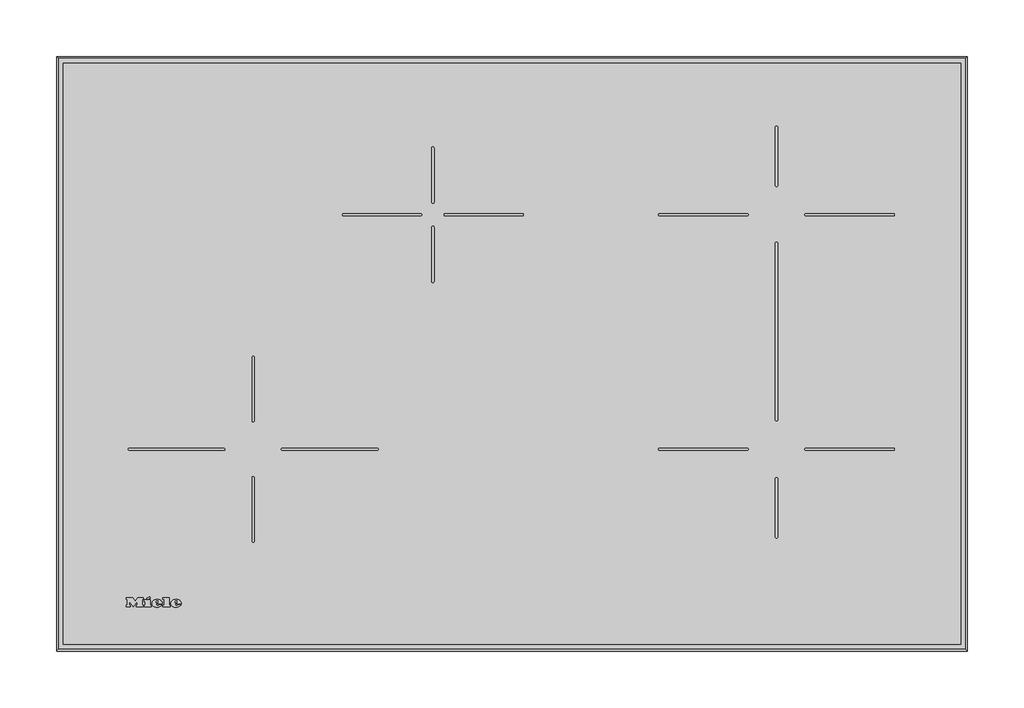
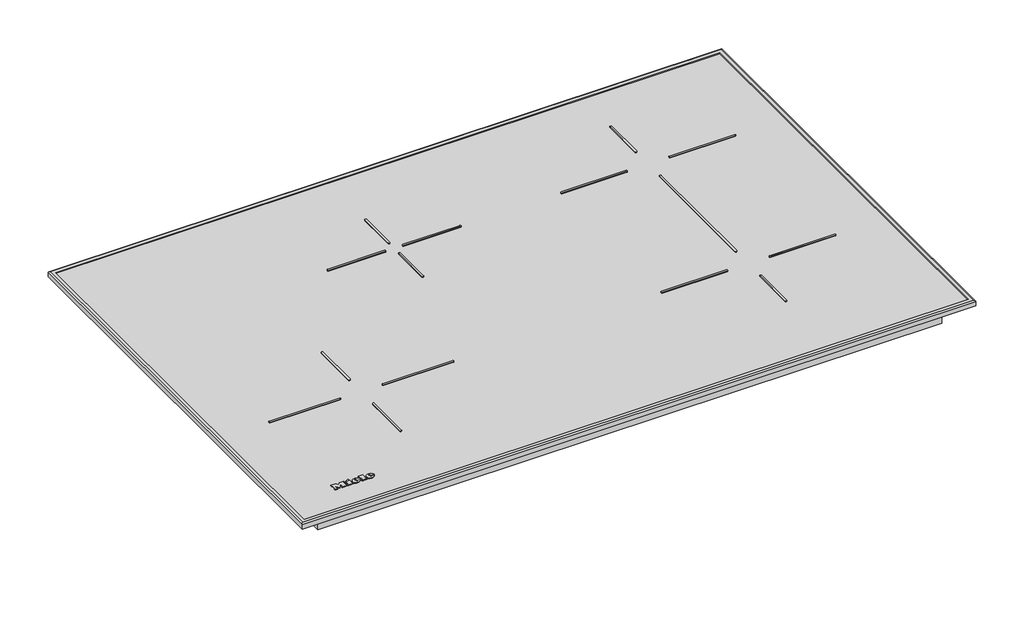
# Not in any storey: 1 proxy.
"""IFC4 building model written with IfcOpenShell, lengths in millimetres."""

import ifcopenshell
import ifcopenshell.guid

model = None  # the IFC model being written
_history = None  # IfcOwnerHistory: only IFC2X3 demands one
_inside = {}  # id of a spatial element -> (the spatial element, [elements in it])
_under = {}  # id of a project, library or spatial element -> (it, [spatial elements below it])
_declared = {}  # id of a project -> (the project, [libraries it declares])
_typed = {}  # id of a type object -> (the type object, [elements of that type])
_made_of = {}  # id of a material, layer set ... -> (it, [elements and type objects made of it])


def new_model(schema):
    """Start an empty IFC model of exactly this schema.

    Asked for "IFC4X3", IfcOpenShell would pick the latest addendum, in which some entities
    have other attributes; the version numbers below select the first issue.
    IFC2X3 requires an IfcOwnerHistory on every rooted entity: one is made here for all.
    """
    global model, _history
    if schema == "IFC4X3":
        model = ifcopenshell.file(schema_version=(4, 3, 0, 0))
    else:
        model = ifcopenshell.file(schema=schema)
    _inside.clear()
    _under.clear()
    _declared.clear()
    _typed.clear()
    _made_of.clear()
    _history = None
    if model.schema == "IFC2X3":
        org = make("IfcOrganization", Name="unknown")
        user = make(
            "IfcPersonAndOrganization",
            ThePerson=make("IfcPerson", FamilyName="unknown"),
            TheOrganization=org,
        )
        app = make(
            "IfcApplication",
            ApplicationDeveloper=org,
            Version="unknown",
            ApplicationFullName="unknown",
            ApplicationIdentifier="unknown",
        )
        _history = make(
            "IfcOwnerHistory",
            OwningUser=user,
            OwningApplication=app,
            ChangeAction="ADDED",
            CreationDate=0,
        )
    return model


def make(cls, **values):
    """One entity of the class cls with the attributes given. An attribute that is None is left unset."""
    return model.create_entity(
        cls, **{name: value for name, value in values.items() if value is not None}
    )


def rooted(cls, **values):
    """An entity with a GlobalId (a new one), such as an element, a storey or a relation."""
    return make(cls, GlobalId=ifcopenshell.guid.new(), OwnerHistory=_history, **values)


def si_unit(unit_type, name, prefix=None):
    """IfcSIUnit, for example si_unit("LENGTHUNIT", "METRE", prefix="MILLI")."""
    return make("IfcSIUnit", UnitType=unit_type, Prefix=prefix, Name=name)


def assignment(units):
    """IfcUnitAssignment: the units of a project."""
    return None if units is None else make("IfcUnitAssignment", Units=units)


def point(xyz):
    """IfcCartesianPoint."""
    return None if xyz is None else make("IfcCartesianPoint", Coordinates=xyz)


def direction(xyz):
    """IfcDirection."""
    return None if xyz is None else make("IfcDirection", DirectionRatios=xyz)


def frame(location, z_axis=None, x_axis=None):
    """IfcAxis2Placement3D, a coordinate frame: its origin and axes. An axis left out is left unset."""
    return make(
        "IfcAxis2Placement3D",
        Location=point(location),
        Axis=direction(z_axis),
        RefDirection=direction(x_axis),
    )


def frame_2d(location, x_axis=None):
    """IfcAxis2Placement2D, a coordinate frame in the plane: its origin and x axis."""
    return make(
        "IfcAxis2Placement2D", Location=point(location), RefDirection=direction(x_axis)
    )


def origin():
    """The frame at (0, 0, 0) with its axes left unset."""
    return frame((0.0, 0.0, 0.0))


def origin_with_axes():
    """The frame at (0, 0, 0) with the z axis (0, 0, 1) and the x axis (1, 0, 0) written out."""
    return frame((0.0, 0.0, 0.0), z_axis=(0.0, 0.0, 1.0), x_axis=(1.0, 0.0, 0.0))


def place(relative_to, where):
    """IfcLocalPlacement: puts the frame where relative to a parent placement (None: the world)."""
    return make(
        "IfcLocalPlacement", PlacementRelTo=relative_to, RelativePlacement=where
    )


def context(
    kind, dimensions, precision=None, world=None, true_north=None, identifier=None
):
    """IfcGeometricRepresentationContext, for example the 3D "Model" context."""
    return make(
        "IfcGeometricRepresentationContext",
        ContextIdentifier=identifier,
        ContextType=kind,
        CoordinateSpaceDimension=dimensions,
        Precision=precision,
        WorldCoordinateSystem=world,
        TrueNorth=true_north,
    )


def project(units=None, contexts=None):
    """IfcProject with its units and contexts."""
    return rooted(
        "IfcProject",
        Name="project",
        RepresentationContexts=contexts,
        UnitsInContext=assignment(units),
    )


def spatial(cls, under=None, at=None, **own):
    """A site, building, storey or space (cls), placed at a placement, below another one or the project."""
    s = rooted(cls, ObjectPlacement=at, **own)
    if under is not None:
        _under.setdefault(under.id(), (under, []))[1].append(s)
    return s


def polyline(points):
    """IfcPolyline through the points."""
    return make("IfcPolyline", Points=[point(p) for p in points])


def circle_curve(where, radius):
    """IfcCircle in the frame where."""
    return make("IfcCircle", Position=where, Radius=radius)


def ellipse_curve(where, semi_axis1, semi_axis2):
    """IfcEllipse in the frame where."""
    return make(
        "IfcEllipse", Position=where, SemiAxis1=semi_axis1, SemiAxis2=semi_axis2
    )


def trimmed(basis, trim1, trim2, sense, master):
    """IfcTrimmedCurve: the piece of a basis curve between two trims."""
    return make(
        "IfcTrimmedCurve",
        BasisCurve=basis,
        Trim1=trim1,
        Trim2=trim2,
        SenseAgreement=sense,
        MasterRepresentation=master,
    )


def segment(curve, same_sense, transition):
    """IfcCompositeCurveSegment."""
    return make(
        "IfcCompositeCurveSegment",
        Transition=transition,
        SameSense=same_sense,
        ParentCurve=curve,
    )


def composite_curve(segments, self_intersect=None):
    """IfcCompositeCurve: segments joined end to end."""
    return make("IfcCompositeCurve", Segments=segments, SelfIntersect=self_intersect)


def outline(outer, holes=None, kind="AREA"):
    """IfcArbitraryClosedProfileDef: a profile drawn as a closed curve; with holes, ...WithVoids."""
    if holes is None:
        return make("IfcArbitraryClosedProfileDef", ProfileType=kind, OuterCurve=outer)
    return make(
        "IfcArbitraryProfileDefWithVoids",
        ProfileType=kind,
        OuterCurve=outer,
        InnerCurves=holes,
    )


def extrude(swept, where, along, depth):
    """IfcExtrudedAreaSolid: the profile swept, set in the frame where, extruded along a direction by depth."""
    return make(
        "IfcExtrudedAreaSolid",
        SweptArea=swept,
        Position=where,
        ExtrudedDirection=direction(along),
        Depth=depth,
    )


def shape(context_of_items, identifier, shape_type, items):
    """IfcShapeRepresentation: the items that make up one representation, for example the "Body"."""
    return make(
        "IfcShapeRepresentation",
        ContextOfItems=context_of_items,
        RepresentationIdentifier=identifier,
        RepresentationType=shape_type,
        Items=items,
    )


def source(mapping_origin, context_of_items, identifier, shape_type, items):
    """IfcRepresentationMap: a shape defined once, which mapped items show again and again."""
    return make(
        "IfcRepresentationMap",
        MappingOrigin=mapping_origin,
        MappedRepresentation=shape(context_of_items, identifier, shape_type, items),
    )


def transform(
    local_origin,
    x_axis=None,
    y_axis=None,
    z_axis=None,
    scale=None,
    scale2=None,
    scale3=None,
    uniform=True,
):
    """IfcCartesianTransformationOperator3D, or its non-uniform kind. x_axis, y_axis, z_axis: its Axis1, 2, 3."""
    if uniform:
        return make(
            "IfcCartesianTransformationOperator3D",
            Axis1=direction(x_axis),
            Axis2=direction(y_axis),
            LocalOrigin=point(local_origin),
            Scale=scale,
            Axis3=direction(z_axis),
        )
    return make(
        "IfcCartesianTransformationOperator3DnonUniform",
        Axis1=direction(x_axis),
        Axis2=direction(y_axis),
        LocalOrigin=point(local_origin),
        Scale=scale,
        Axis3=direction(z_axis),
        Scale2=scale2,
        Scale3=scale3,
    )


def mapped(mapping_source, mapping_target):
    """IfcMappedItem: shows the shape of a source again, moved by a transform."""
    return make(
        "IfcMappedItem", MappingSource=mapping_source, MappingTarget=mapping_target
    )


def made_of(thing, what):
    """Note that an element or type object is made of a material, layer set ...; save() writes the relation."""
    if what is not None:
        _made_of.setdefault(what.id(), (what, []))[1].append(thing)
    return thing


def element(
    cls,
    number,
    at=None,
    inside=None,
    cuts=None,
    type_object=None,
    material=None,
    context=None,
    identifier="Body",
    shape_type=None,
    held_by="IfcProductDefinitionShape",
    body=None,
    shapes=None,
    **own,
):
    """One element of the class cls, such as IfcWall. Its Tag is "e" and its number.

    at: its placement. inside: the storey or other place that contains it. cuts: it is an
    opening in that element (IfcRelVoidsElement). A single representation is given by context,
    identifier, shape_type and body (its items); several are given by shapes. held_by: the class
    of the entity that holds the representations. save() writes the other relations.
    """
    e = rooted(cls, Tag="e%d" % number, ObjectPlacement=at, **own)
    if body is not None:
        shapes = [shape(context, identifier, shape_type, body)]
    if shapes is not None:
        e.Representation = make(held_by, Representations=shapes)
    if inside is not None:
        _inside.setdefault(inside.id(), (inside, []))[1].append(e)
    if cuts is not None:
        rooted(
            "IfcRelVoidsElement", RelatingBuildingElement=cuts, RelatedOpeningElement=e
        )
    if type_object is not None:
        _typed.setdefault(type_object.id(), (type_object, []))[1].append(e)
    return made_of(e, material)


def aggregate(whole, parts):
    """IfcRelAggregates: a whole, such as a stair, and the parts it consists of."""
    return rooted("IfcRelAggregates", RelatingObject=whole, RelatedObjects=parts)


def save(model, path):
    """Write the relations noted so far, then the file.

    IfcRelAggregates (storeys below a building ...), IfcRelContainedInSpatialStructure (elements
    in a storey), IfcRelDefinesByType, IfcRelAssociatesMaterial and IfcRelDeclares: one each for
    every whole, place, type object, material and project.
    """
    for whole, parts in _under.values():
        aggregate(whole, parts)
    for where, things in _inside.values():
        rooted(
            "IfcRelContainedInSpatialStructure",
            RelatedElements=things,
            RelatingStructure=where,
        )
    for kind, things in _typed.values():
        rooted("IfcRelDefinesByType", RelatedObjects=things, RelatingType=kind)
    for what, things in _made_of.values():
        rooted("IfcRelAssociatesMaterial", RelatedObjects=things, RelatingMaterial=what)
    for by, libraries in _declared.values():
        rooted("IfcRelDeclares", RelatingContext=by, RelatedDefinitions=libraries)
    model.write(path)


def plane_surface(at):
    """IfcPlane: the flat surface through the origin of the frame at, square to its z axis."""
    return make("IfcPlane", Position=at)


def cylinder_surface(at, radius):
    """IfcCylindricalSurface: all points at the distance radius from the z axis of the frame at."""
    return make("IfcCylindricalSurface", Position=at, Radius=radius)


def revolved_surface(curve, axis_point, axis_direction):
    """IfcSurfaceOfRevolution: the curve turned about the line through axis_point along axis_direction."""
    return make(
        "IfcSurfaceOfRevolution",
        SweptCurve=make("IfcArbitraryOpenProfileDef", ProfileType="CURVE", Curve=curve),
        AxisPosition=make("IfcAxis1Placement", Location=point(axis_point), Axis=direction(axis_direction)),
    )


def extruded_surface(curve, direction_of_extrusion, depth):
    """IfcSurfaceOfLinearExtrusion: the curve pushed along a direction by depth."""
    return make(
        "IfcSurfaceOfLinearExtrusion",
        SweptCurve=make("IfcArbitraryOpenProfileDef", ProfileType="CURVE", Curve=curve),
        ExtrudedDirection=direction(direction_of_extrusion),
        Depth=depth,
    )


def advanced_brep(points, edges, surfaces, faces):
    """IfcAdvancedBrep: a solid bounded by faces that lie on surfaces and meet in shared edges.

    An edge is (start, end): straight between two places in points (the first is 0);
    or (start, end, curve); or (start, end, curve, False) where it runs against its curve.
    A face is (place in surfaces, loops), or (place, loops, False) where it looks against
    its surface's normal. A loop lists edges by number (the first is 1), with a minus sign
    where the edge is run from its end to its start. The first loop is the outer one.
    """
    corners = [point(p) for p in points]
    vertices = [make("IfcVertexPoint", VertexGeometry=c) for c in corners]
    made = []
    for start, end, *more in edges:
        made.append(
            make(
                "IfcEdgeCurve",
                EdgeStart=vertices[start],
                EdgeEnd=vertices[end],
                EdgeGeometry=more[0] if more else make("IfcPolyline", Points=[corners[start], corners[end]]),
                SameSense=more[1] if len(more) > 1 else True,
            )
        )
    hull = []
    for where, loops, *sense in faces:
        bounds = []
        for j, loop in enumerate(loops):
            ring = [make("IfcOrientedEdge", EdgeElement=made[abs(k) - 1], Orientation=k > 0) for k in loop]
            bounds.append(
                make(
                    "IfcFaceOuterBound" if j == 0 else "IfcFaceBound",
                    Bound=make("IfcEdgeLoop", EdgeList=ring),
                    Orientation=True,
                )
            )
        hull.append(make("IfcAdvancedFace", Bounds=bounds, FaceSurface=surfaces[where], SameSense=sense[0] if sense else True))
    return make("IfcAdvancedBrep", Outer=make("IfcClosedShell", CfsFaces=hull))


def specialty_equipment_a5883740(model_context):
    return source(origin(), model_context, "Body", "SolidModel", [
        advanced_brep(
        [(-297.911984, 41.066, 5.0000007), (-297.911984, 41.874, 5.0000007), (-292.559984, 41.874, 5.0000007), (-301.871984, 41.874, 5.0000007), (-299.671984, 39.17, 5.0000007), (-292.695984, 41.066, 5.0000007), (-295.111984, 41.066, 5.0000007), (-297.015984, 40.17, 5.0000007), (-297.911984, 42.898, 5.0000007), (-297.911984, 43.77, 5.0000007), (-296.543984, 43.77, 5.0000007), (-296.543984, 42.898, 5.0000007), (-297.911984, 41.066, 4.0000007), (-297.015984, 40.17, 4.0000007), (-295.111984, 41.066, 4.0000007), (-292.695984, 41.066, 4.0000007), (-299.671984, 39.17, 4.0000007), (-301.871984, 41.874, 4.0000007), (-292.559984, 41.874, 4.0000007), (-297.911984, 41.874, 4.0000007), (-297.911984, 42.898, 4.0000007), (-296.543984, 42.898, 4.0000007), (-296.543984, 43.77, 4.0000007), (-297.911984, 43.77, 4.0000007)],
        [
            (0, 1),
            (1, 2),
            (2, 3, ellipse_curve(frame((-297.215984, 41.874, 5.0000007), z_axis=(0.0, 0.0, 1.0), x_axis=(-1.0, 0.0, 0.0)), 4.656, 3.848)),
            (3, 4, circle_curve(frame((-298.7759404, 42.146, 5.0000007), z_axis=(0.0, 0.0, 1.0), x_axis=(0.0, -1.0, 0.0)), 3.1079688)),
            (4, 5, circle_curve(frame((-297.3091904, 44.258, 5.0000007), z_axis=(0.0, 0.0, 1.0), x_axis=(0.0, -1.0, 0.0)), 5.6098607)),
            (5, 6),
            (6, 7, circle_curve(frame((-296.6249252, 41.81, 5.0000007), z_axis=(0.0, 0.0, -1.0), x_axis=(0.0, -1.0, 0.0)), 1.6859795)),
            (7, 0, circle_curve(frame((-297.015984, 41.066, 5.0000007), z_axis=(0.0, 0.0, -1.0), x_axis=(0.0, -1.0, 0.0)), 0.896)),
            (8, 9),
            (9, 10, circle_curve(frame((-297.227984, 43.77, 5.0000007), z_axis=(0.0, 0.0, -1.0), x_axis=(0.0, -1.0, 0.0)), 0.684)),
            (10, 11),
            (11, 8),
            (12, 13, circle_curve(frame((-297.015984, 41.066, 4.0000007), z_axis=(0.0, 0.0, 1.0), x_axis=(0.0, -1.0, 0.0)), 0.896)),
            (13, 14, circle_curve(frame((-296.6249252, 41.81, 4.0000007), z_axis=(0.0, 0.0, 1.0), x_axis=(0.0, -1.0, 0.0)), 1.6859795)),
            (14, 15),
            (15, 16, circle_curve(frame((-297.3091904, 44.258, 4.0000007), z_axis=(0.0, 0.0, -1.0), x_axis=(0.0, -1.0, 0.0)), 5.6098607)),
            (16, 17, circle_curve(frame((-298.7759404, 42.146, 4.0000007), z_axis=(0.0, 0.0, -1.0), x_axis=(0.0, -1.0, 0.0)), 3.1079688)),
            (17, 18, ellipse_curve(frame((-297.215984, 41.874, 4.0000007), z_axis=(0.0, 0.0, -1.0), x_axis=(-1.0, 0.0, 0.0)), 4.656, 3.848)),
            (18, 19),
            (19, 12),
            (20, 21),
            (21, 22),
            (22, 23, circle_curve(frame((-297.227984, 43.77, 4.0000007), z_axis=(0.0, 0.0, 1.0), x_axis=(0.0, -1.0, 0.0)), 0.684)),
            (23, 20),
            (0, 12),
            (19, 1),
            (18, 2),
            (5, 15),
            (14, 6),
            (17, 3),
            (13, 7),
            (16, 4),
            (8, 20),
            (23, 9),
            (22, 10),
            (21, 11),
        ],
        [
            plane_surface(frame((-297.911984, 41.874, 5.0000007), z_axis=(0.0, 0.0, 1.0), x_axis=(0.0, 1.0, 0.0))),
            plane_surface(frame((-297.911984, 41.874, 4.0000007), z_axis=(0.0, 0.0, -1.0), x_axis=(0.0, -1.0, 0.0))),
            plane_surface(frame((-297.911984, 41.066, 5.0000007), z_axis=(1.0, 0.0, 0.0), x_axis=(0.0, 0.0, -1.0))),
            plane_surface(frame((-297.911984, 41.874, 5.0000007), z_axis=(0.0, -1.0, 0.0), x_axis=(0.0, 0.0, -1.0))),
            plane_surface(frame((-292.695984, 41.066, 5.0000007), z_axis=(0.0, 1.0, 0.0), x_axis=(0.0, 0.0, -1.0))),
            extruded_surface(trimmed(ellipse_curve(frame((-297.215984, 41.874, 3.0000007), z_axis=(0.0, 0.0, 1.0), x_axis=(-1.0, 0.0, 0.0)), 4.656, 3.848), [point((-292.559984, 41.874, 3.0000007))], [point((-301.871984, 41.874, 3.0000007))], True, "CARTESIAN"), (0.0, 0.0, 1.0), 1.0),
            revolved_surface(polyline([(-296.6249252, 40.1240205, 4.0000007), (-296.6249252, 40.1240205, 5.0000007)]), (-296.6249252, 41.81, 4.0000007), (0.0, 0.0, -1.0)),
            revolved_surface(polyline([(-297.015984, 40.17, 4.0000007), (-297.015984, 40.17, 5.0000007)]), (-297.015984, 41.066, 4.0000007), (0.0, 0.0, -1.0)),
            cylinder_surface(frame((-298.7759404, 42.146, 4.0000007), z_axis=(0.0, 0.0, 1.0), x_axis=(0.0, -1.0, 0.0)), 3.1079688),
            cylinder_surface(frame((-297.3091904, 44.258, 4.0000007), z_axis=(0.0, 0.0, 1.0), x_axis=(0.0, -1.0, 0.0)), 5.6098607),
            plane_surface(frame((-297.911984, 42.898, 5.0000007), z_axis=(1.0, 0.0, 0.0), x_axis=(0.0, 0.0, -1.0))),
            revolved_surface(polyline([(-297.227984, 43.086000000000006, 4.0000007), (-297.227984, 43.086000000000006, 5.0000007)]), (-297.227984, 43.77, 4.0000007), (0.0, 0.0, -1.0)),
            plane_surface(frame((-296.543984, 43.77, 5.0000007), z_axis=(-1.0, 0.0, 0.0), x_axis=(0.0, 0.0, -1.0))),
            plane_surface(frame((-296.543984, 42.898, 5.0000007), z_axis=(0.0, 1.0, 0.0), x_axis=(0.0, 0.0, -1.0))),
        ],
        [
            (0, [[1, 2, 3, 4, 5, 6, 7, 8], [9, 10, 11, 12]]),
            (1, [[13, 14, 15, 16, 17, 18, 19, 20], [21, 22, 23, 24]]),
            (2, [[-1, 25, -20, 26]]),
            (3, [[-2, -26, -19, 27]]),
            (4, [[-6, 28, -15, 29]]),
            (5, [[-3, -27, -18, 30]]),
            (6, [[-7, -29, -14, 31]]),
            (7, [[-8, -31, -13, -25]]),
            (8, [[-4, -30, -17, 32]]),
            (9, [[-5, -32, -16, -28]]),
            (10, [[-9, 33, -24, 34]]),
            (11, [[-10, -34, -23, 35]]),
            (12, [[-11, -35, -22, 36]]),
            (13, [[-12, -36, -21, -33]]),
        ],
    ),
        advanced_brep(
        [(-314.607984, 41.066, 5.0000007), (-314.607984, 41.874, 5.0000007), (-309.255984, 41.874, 5.0000007), (-318.567984, 41.874, 5.0000007), (-316.367984, 39.17, 5.0000007), (-309.391984, 41.066, 5.0000007), (-311.807984, 41.066, 5.0000007), (-313.711984, 40.17, 5.0000007), (-314.607984, 42.898, 5.0000007), (-314.607984, 43.77, 5.0000007), (-313.239984, 43.77, 5.0000007), (-313.239984, 42.898, 5.0000007), (-314.607984, 41.066, 4.0000007), (-313.711984, 40.17, 4.0000007), (-311.807984, 41.066, 4.0000007), (-309.391984, 41.066, 4.0000007), (-316.367984, 39.17, 4.0000007), (-318.567984, 41.874, 4.0000007), (-309.255984, 41.874, 4.0000007), (-314.607984, 41.874, 4.0000007), (-314.607984, 42.898, 4.0000007), (-313.239984, 42.898, 4.0000007), (-313.239984, 43.77, 4.0000007), (-314.607984, 43.77, 4.0000007)],
        [
            (0, 1),
            (1, 2),
            (2, 3, ellipse_curve(frame((-313.911984, 41.874, 5.0000007), z_axis=(0.0, 0.0, 1.0), x_axis=(-1.0, 0.0, 0.0)), 4.656, 3.848)),
            (3, 4, circle_curve(frame((-315.4719404, 42.146, 5.0000007), z_axis=(0.0, 0.0, 1.0), x_axis=(0.0, -1.0, 0.0)), 3.1079688)),
            (4, 5, circle_curve(frame((-314.0051904, 44.258, 5.0000007), z_axis=(0.0, 0.0, 1.0), x_axis=(0.0, -1.0, 0.0)), 5.6098607)),
            (5, 6),
            (6, 7, circle_curve(frame((-313.3209252, 41.81, 5.0000007), z_axis=(0.0, 0.0, -1.0), x_axis=(0.0, -1.0, 0.0)), 1.6859795)),
            (7, 0, circle_curve(frame((-313.711984, 41.066, 5.0000007), z_axis=(0.0, 0.0, -1.0), x_axis=(0.0, -1.0, 0.0)), 0.896)),
            (8, 9),
            (9, 10, circle_curve(frame((-313.923984, 43.77, 5.0000007), z_axis=(0.0, 0.0, -1.0), x_axis=(0.0, -1.0, 0.0)), 0.684)),
            (10, 11),
            (11, 8),
            (12, 13, circle_curve(frame((-313.711984, 41.066, 4.0000007), z_axis=(0.0, 0.0, 1.0), x_axis=(0.0, -1.0, 0.0)), 0.896)),
            (13, 14, circle_curve(frame((-313.3209252, 41.81, 4.0000007), z_axis=(0.0, 0.0, 1.0), x_axis=(0.0, -1.0, 0.0)), 1.6859795)),
            (14, 15),
            (15, 16, circle_curve(frame((-314.0051904, 44.258, 4.0000007), z_axis=(0.0, 0.0, -1.0), x_axis=(0.0, -1.0, 0.0)), 5.6098607)),
            (16, 17, circle_curve(frame((-315.4719404, 42.146, 4.0000007), z_axis=(0.0, 0.0, -1.0), x_axis=(0.0, -1.0, 0.0)), 3.1079688)),
            (17, 18, ellipse_curve(frame((-313.911984, 41.874, 4.0000007), z_axis=(0.0, 0.0, -1.0), x_axis=(-1.0, 0.0, 0.0)), 4.656, 3.848)),
            (18, 19),
            (19, 12),
            (20, 21),
            (21, 22),
            (22, 23, circle_curve(frame((-313.923984, 43.77, 4.0000007), z_axis=(0.0, 0.0, 1.0), x_axis=(0.0, -1.0, 0.0)), 0.684)),
            (23, 20),
            (0, 12),
            (19, 1),
            (18, 2),
            (5, 15),
            (14, 6),
            (17, 3),
            (13, 7),
            (16, 4),
            (8, 20),
            (23, 9),
            (22, 10),
            (21, 11),
        ],
        [
            plane_surface(frame((-314.607984, 41.874, 5.0000007), z_axis=(0.0, 0.0, 1.0), x_axis=(0.0, 1.0, 0.0))),
            plane_surface(frame((-314.607984, 41.874, 4.0000007), z_axis=(0.0, 0.0, -1.0), x_axis=(0.0, -1.0, 0.0))),
            plane_surface(frame((-314.607984, 41.066, 5.0000007), z_axis=(1.0, 0.0, 0.0), x_axis=(0.0, 0.0, -1.0))),
            plane_surface(frame((-314.607984, 41.874, 5.0000007), z_axis=(0.0, -1.0, 0.0), x_axis=(0.0, 0.0, -1.0))),
            plane_surface(frame((-309.391984, 41.066, 5.0000007), z_axis=(0.0, 1.0, 0.0), x_axis=(0.0, 0.0, -1.0))),
            extruded_surface(trimmed(ellipse_curve(frame((-313.911984, 41.874, 3.0000007), z_axis=(0.0, 0.0, 1.0), x_axis=(-1.0, 0.0, 0.0)), 4.656, 3.848), [point((-309.255984, 41.874, 3.0000007))], [point((-318.567984, 41.874, 3.0000007))], True, "CARTESIAN"), (0.0, 0.0, 1.0), 1.0),
            revolved_surface(polyline([(-313.3209252, 40.1240205, 4.0000007), (-313.3209252, 40.1240205, 5.0000007)]), (-313.3209252, 41.81, 4.0000007), (0.0, 0.0, -1.0)),
            revolved_surface(polyline([(-313.711984, 40.17, 4.0000007), (-313.711984, 40.17, 5.0000007)]), (-313.711984, 41.066, 4.0000007), (0.0, 0.0, -1.0)),
            cylinder_surface(frame((-315.4719404, 42.146, 4.0000007), z_axis=(0.0, 0.0, 1.0), x_axis=(0.0, -1.0, 0.0)), 3.1079688),
            cylinder_surface(frame((-314.0051904, 44.258, 4.0000007), z_axis=(0.0, 0.0, 1.0), x_axis=(0.0, -1.0, 0.0)), 5.6098607),
            plane_surface(frame((-314.607984, 42.898, 5.0000007), z_axis=(1.0, 0.0, 0.0), x_axis=(0.0, 0.0, -1.0))),
            revolved_surface(polyline([(-313.923984, 43.086000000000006, 4.0000007), (-313.923984, 43.086000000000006, 5.0000007)]), (-313.923984, 43.77, 4.0000007), (0.0, 0.0, -1.0)),
            plane_surface(frame((-313.239984, 43.77, 5.0000007), z_axis=(-1.0, 0.0, 0.0), x_axis=(0.0, 0.0, -1.0))),
            plane_surface(frame((-313.239984, 42.898, 5.0000007), z_axis=(0.0, 1.0, 0.0), x_axis=(0.0, 0.0, -1.0))),
        ],
        [
            (0, [[1, 2, 3, 4, 5, 6, 7, 8], [9, 10, 11, 12]]),
            (1, [[13, 14, 15, 16, 17, 18, 19, 20], [21, 22, 23, 24]]),
            (2, [[-1, 25, -20, 26]]),
            (3, [[-2, -26, -19, 27]]),
            (4, [[-6, 28, -15, 29]]),
            (5, [[-3, -27, -18, 30]]),
            (6, [[-7, -29, -14, 31]]),
            (7, [[-8, -31, -13, -25]]),
            (8, [[-4, -30, -17, 32]]),
            (9, [[-5, -32, -16, -28]]),
            (10, [[-9, 33, -24, 34]]),
            (11, [[-10, -34, -23, 35]]),
            (12, [[-11, -35, -22, 36]]),
            (13, [[-12, -36, -21, -33]]),
        ],
    ),
        extrude(outline(polyline([(-323.351984, 46.698), (-320.631984, 47.962), (-320.031984, 46.666), (-322.743984, 45.402), (-323.351984, 46.698)])), frame((0.0, 0.0, 4.0000007), z_axis=(0.0, 0.0, 1.0), x_axis=(1.0, 0.0, 0.0)), (0.0, 0.0, 1.0), 1.0),
        extrude(outline(polyline([(-325.327984, 45.226), (-319.943984, 45.226), (-319.943984, 40.514), (-319.015984, 40.514), (-319.015984, 39.17), (-325.327984, 39.17), (-325.327984, 40.514), (-324.375984, 40.514), (-324.375984, 43.794), (-325.327984, 43.794), (-325.327984, 45.226)])), frame((0.0, 0.0, 4.0000007), z_axis=(0.0, 0.0, 1.0), x_axis=(1.0, 0.0, 0.0)), (0.0, 0.0, 1.0), 1.0),
        extrude(outline(polyline([(-308.807984, 45.866), (-308.807984, 47.17), (-303.303984, 47.17), (-303.303984, 40.514), (-302.319984, 40.514), (-302.319984, 39.17), (-308.807984, 39.17), (-308.807984, 40.514), (-307.847984, 40.514), (-307.847984, 45.866), (-308.807984, 45.866)])), frame((0.0, 0.0, 4.0000007), z_axis=(0.0, 0.0, 1.0), x_axis=(1.0, 0.0, 0.0)), (0.0, 0.0, 1.0), 1.0),
        extrude(outline(polyline([(-341.271984, 45.866), (-341.271984, 47.17), (-335.695984, 47.17), (-333.351984, 44.17), (-331.015984, 47.17), (-326.143984, 47.17), (-326.143984, 45.866), (-327.159984, 45.866), (-327.159984, 40.514), (-326.143984, 40.514), (-326.143984, 39.17), (-332.527984, 39.17), (-332.527984, 40.514), (-331.543984, 40.514), (-331.543984, 43.9852223), (-335.135984, 39.17), (-338.711984, 43.9171247), (-338.711984, 40.514), (-337.751984, 40.514), (-337.751984, 39.17), (-341.271984, 39.17), (-341.271984, 40.514), (-340.303984, 40.514), (-340.303984, 45.866), (-341.271984, 45.866)])), frame((0.0, 0.0, 4.0000007), z_axis=(0.0, 0.0, 1.0), x_axis=(1.0, 0.0, 0.0)), (0.0, 0.0, 1.0), 1.0),
        extrude(outline(composite_curve([segment(polyline([(-69.0, 375.0), (-69.0, 327.0)]), True, "CONTINUOUS"), segment(trimmed(circle_curve(frame_2d((-70.0, 327.0)), 1.0), [point((-69.0, 327.0))], [point((-71.0, 327.0))], False, "CARTESIAN"), True, "CONTINUOUS"), segment(polyline([(-71.0, 327.0), (-71.0, 375.0)]), True, "CONTINUOUS"), segment(trimmed(circle_curve(frame_2d((-70.0, 375.0)), 1.0), [point((-71.0, 375.0))], [point((-69.0, 375.0))], False, "CARTESIAN"), True, "CONTINUOUS")], self_intersect=False)), frame((0.0, 0.0, 4.0000007), z_axis=(0.0, 0.0, 1.0), x_axis=(1.0, 0.0, 0.0)), (0.0, 0.0, 1.0), 1.0),
        extrude(outline(composite_curve([segment(trimmed(circle_curve(frame_2d((-59.0, 386.0)), 1.0), [point((-59.0, 385.0))], [point((-59.0, 387.0))], False, "CARTESIAN"), True, "CONTINUOUS"), segment(polyline([(-59.0, 387.0), (9.0, 387.0)]), True, "CONTINUOUS"), segment(trimmed(circle_curve(frame_2d((9.0, 386.0)), 1.0), [point((9.0, 387.0))], [point((9.0, 385.0))], False, "CARTESIAN"), True, "CONTINUOUS"), segment(polyline([(9.0, 385.0), (-59.0, 385.0)]), True, "CONTINUOUS")], self_intersect=False)), frame((0.0, 0.0, 4.0000007), z_axis=(0.0, 0.0, 1.0), x_axis=(1.0, 0.0, 0.0)), (0.0, 0.0, 1.0), 1.0),
        extrude(outline(composite_curve([segment(polyline([(-228.0, 153.2492439), (-228.0, 97.2492439)]), True, "CONTINUOUS"), segment(trimmed(circle_curve(frame_2d((-229.0, 97.2492439)), 1.0), [point((-228.0, 97.2492439))], [point((-230.0, 97.2492439))], False, "CARTESIAN"), True, "CONTINUOUS"), segment(polyline([(-230.0, 97.2492439), (-230.0, 153.2492439)]), True, "CONTINUOUS"), segment(trimmed(circle_curve(frame_2d((-229.0, 153.2492439)), 1.0), [point((-230.0, 153.2492439))], [point((-228.0, 153.2492439))], False, "CARTESIAN"), True, "CONTINUOUS")], self_intersect=False)), frame((0.0, 0.0, 4.0000007), z_axis=(0.0, 0.0, 1.0), x_axis=(1.0, 0.0, 0.0)), (0.0, 0.0, 1.0), 1.0),
        extrude(outline(composite_curve([segment(trimmed(circle_curve(frame_2d((-203.0, 178.5)), 1.0), [point((-203.0, 177.5))], [point((-203.0, 179.5))], False, "CARTESIAN"), True, "CONTINUOUS"), segment(polyline([(-203.0, 179.5), (-119.5, 179.5)]), True, "CONTINUOUS"), segment(trimmed(circle_curve(frame_2d((-119.5, 178.5)), 1.0), [point((-119.5, 179.5))], [point((-119.5, 177.5))], False, "CARTESIAN"), True, "CONTINUOUS"), segment(polyline([(-119.5, 177.5), (-203.0, 177.5)]), True, "CONTINUOUS")], self_intersect=False)), frame((0.0, 0.0, 4.0000007), z_axis=(0.0, 0.0, 1.0), x_axis=(1.0, 0.0, 0.0)), (0.0, 0.0, 1.0), 1.0),
        extrude(outline(composite_curve([segment(polyline([(233.0, 204.5123919), (233.0, 360.739463)]), True, "CONTINUOUS"), segment(trimmed(circle_curve(frame_2d((234.0, 360.739463)), 1.0), [point((233.0, 360.739463))], [point((235.0, 360.739463))], False, "CARTESIAN"), True, "CONTINUOUS"), segment(polyline([(235.0, 360.739463), (235.0, 204.5123919)]), True, "CONTINUOUS"), segment(trimmed(circle_curve(frame_2d((234.0, 204.5123919)), 1.0), [point((235.0, 204.5123919))], [point((233.0, 204.5123919))], False, "CARTESIAN"), True, "CONTINUOUS")], self_intersect=False)), frame((0.0, 0.0, 4.0000007), z_axis=(0.0, 0.0, 1.0), x_axis=(1.0, 0.0, 0.0)), (0.0, 0.0, 1.0), 1.0),
        extrude(outline(composite_curve([segment(trimmed(circle_curve(frame_2d((234.0, 152.520008)), 1.0), [point((233.0, 152.520008))], [point((235.0, 152.520008))], False, "CARTESIAN"), True, "CONTINUOUS"), segment(polyline([(235.0, 152.520008), (235.0, 100.9135338)]), True, "CONTINUOUS"), segment(trimmed(circle_curve(frame_2d((234.0, 100.9135338)), 1.0), [point((235.0, 100.9135338))], [point((233.0, 100.9135338))], False, "CARTESIAN"), True, "CONTINUOUS"), segment(polyline([(233.0, 100.9135338), (233.0, 152.520008)]), True, "CONTINUOUS")], self_intersect=False)), frame((0.0, 0.0, 4.0000007), z_axis=(0.0, 0.0, 1.0), x_axis=(1.0, 0.0, 0.0)), (0.0, 0.0, 1.0), 1.0),
        extrude(outline(composite_curve([segment(trimmed(circle_curve(frame_2d((234.0, 411.979992)), 1.0), [point((235.0, 411.979992))], [point((233.0, 411.979992))], False, "CARTESIAN"), True, "CONTINUOUS"), segment(polyline([(233.0, 411.979992), (233.0, 463.401697)]), True, "CONTINUOUS"), segment(trimmed(circle_curve(frame_2d((234.0, 463.401697)), 1.0), [point((233.0, 463.401697))], [point((235.0, 463.401697))], False, "CARTESIAN"), True, "CONTINUOUS"), segment(polyline([(235.0, 463.401697), (235.0, 411.979992)]), True, "CONTINUOUS")], self_intersect=False)), frame((0.0, 0.0, 4.0000007), z_axis=(0.0, 0.0, 1.0), x_axis=(1.0, 0.0, 0.0)), (0.0, 0.0, 1.0), 1.0),
        extrude(outline(composite_curve([segment(trimmed(circle_curve(frame_2d((259.979992, 386.0)), 1.0), [point((259.979992, 385.0))], [point((259.979992, 387.0))], False, "CARTESIAN"), True, "CONTINUOUS"), segment(polyline([(259.979992, 387.0), (337.401697, 387.0)]), True, "CONTINUOUS"), segment(trimmed(circle_curve(frame_2d((337.401697, 386.0)), 1.0), [point((337.401697, 387.0))], [point((337.401697, 385.0))], False, "CARTESIAN"), True, "CONTINUOUS"), segment(polyline([(337.401697, 385.0), (259.979992, 385.0)]), True, "CONTINUOUS")], self_intersect=False)), frame((0.0, 0.0, 4.0000007), z_axis=(0.0, 0.0, 1.0), x_axis=(1.0, 0.0, 0.0)), (0.0, 0.0, 1.0), 1.0),
        extrude(outline(composite_curve([segment(polyline([(208.020008, 385.0), (130.598303, 385.0)]), True, "CONTINUOUS"), segment(trimmed(circle_curve(frame_2d((130.598303, 386.0)), 1.0), [point((130.598303, 385.0))], [point((130.598303, 387.0))], False, "CARTESIAN"), True, "CONTINUOUS"), segment(polyline([(130.598303, 387.0), (208.020008, 387.0)]), True, "CONTINUOUS"), segment(trimmed(circle_curve(frame_2d((208.020008, 386.0)), 1.0), [point((208.020008, 387.0))], [point((208.020008, 385.0))], False, "CARTESIAN"), True, "CONTINUOUS")], self_intersect=False)), frame((0.0, 0.0, 4.0000007), z_axis=(0.0, 0.0, 1.0), x_axis=(1.0, 0.0, 0.0)), (0.0, 0.0, 1.0), 1.0),
        extrude(outline(composite_curve([segment(trimmed(circle_curve(frame_2d((259.979992, 178.5)), 1.0), [point((259.979992, 177.5))], [point((259.979992, 179.5))], False, "CARTESIAN"), True, "CONTINUOUS"), segment(polyline([(259.979992, 179.5), (337.401697, 179.5)]), True, "CONTINUOUS"), segment(trimmed(circle_curve(frame_2d((337.401697, 178.5)), 1.0), [point((337.401697, 179.5))], [point((337.401697, 177.5))], False, "CARTESIAN"), True, "CONTINUOUS"), segment(polyline([(337.401697, 177.5), (259.979992, 177.5)]), True, "CONTINUOUS")], self_intersect=False)), frame((0.0, 0.0, 4.0000007), z_axis=(0.0, 0.0, 1.0), x_axis=(1.0, 0.0, 0.0)), (0.0, 0.0, 1.0), 1.0),
        extrude(outline(composite_curve([segment(polyline([(208.020008, 177.5), (130.598303, 177.5)]), True, "CONTINUOUS"), segment(trimmed(circle_curve(frame_2d((130.598303, 178.5)), 1.0), [point((130.598303, 177.5))], [point((130.598303, 179.5))], False, "CARTESIAN"), True, "CONTINUOUS"), segment(polyline([(130.598303, 179.5), (208.020008, 179.5)]), True, "CONTINUOUS"), segment(trimmed(circle_curve(frame_2d((208.020008, 178.5)), 1.0), [point((208.020008, 179.5))], [point((208.020008, 177.5))], False, "CARTESIAN"), True, "CONTINUOUS")], self_intersect=False)), frame((0.0, 0.0, 4.0000007), z_axis=(0.0, 0.0, 1.0), x_axis=(1.0, 0.0, 0.0)), (0.0, 0.0, 1.0), 1.0),
        extrude(outline(composite_curve([segment(polyline([(-255.0, 177.5), (-338.5, 177.5)]), True, "CONTINUOUS"), segment(trimmed(circle_curve(frame_2d((-338.5, 178.5)), 1.0), [point((-338.5, 177.5))], [point((-338.5, 179.5))], False, "CARTESIAN"), True, "CONTINUOUS"), segment(polyline([(-338.5, 179.5), (-255.0, 179.5)]), True, "CONTINUOUS"), segment(trimmed(circle_curve(frame_2d((-255.0, 178.5)), 1.0), [point((-255.0, 179.5))], [point((-255.0, 177.5))], False, "CARTESIAN"), True, "CONTINUOUS")], self_intersect=False)), frame((0.0, 0.0, 4.0000007), z_axis=(0.0, 0.0, 1.0), x_axis=(1.0, 0.0, 0.0)), (0.0, 0.0, 1.0), 1.0),
        extrude(outline(composite_curve([segment(trimmed(circle_curve(frame_2d((-229.0, 203.7507561)), 1.0), [point((-228.0, 203.7507561))], [point((-230.0, 203.7507561))], False, "CARTESIAN"), True, "CONTINUOUS"), segment(polyline([(-230.0, 203.7507561), (-230.0, 259.7507561)]), True, "CONTINUOUS"), segment(trimmed(circle_curve(frame_2d((-229.0, 259.7507561)), 1.0), [point((-230.0, 259.7507561))], [point((-228.0, 259.7507561))], False, "CARTESIAN"), True, "CONTINUOUS"), segment(polyline([(-228.0, 259.7507561), (-228.0, 203.7507561)]), True, "CONTINUOUS")], self_intersect=False)), frame((0.0, 0.0, 4.0000007), z_axis=(0.0, 0.0, 1.0), x_axis=(1.0, 0.0, 0.0)), (0.0, 0.0, 1.0), 1.0),
        extrude(outline(composite_curve([segment(trimmed(circle_curve(frame_2d((-70.0, 397.0)), 1.0), [point((-69.0, 397.0))], [point((-71.0, 397.0))], False, "CARTESIAN"), True, "CONTINUOUS"), segment(polyline([(-71.0, 397.0), (-71.0, 445.0)]), True, "CONTINUOUS"), segment(trimmed(circle_curve(frame_2d((-70.0, 445.0)), 1.0), [point((-71.0, 445.0))], [point((-69.0, 445.0))], False, "CARTESIAN"), True, "CONTINUOUS"), segment(polyline([(-69.0, 445.0), (-69.0, 397.0)]), True, "CONTINUOUS")], self_intersect=False)), frame((0.0, 0.0, 4.0000007), z_axis=(0.0, 0.0, 1.0), x_axis=(1.0, 0.0, 0.0)), (0.0, 0.0, 1.0), 1.0),
        extrude(outline(composite_curve([segment(polyline([(-81.0, 385.0), (-149.0, 385.0)]), True, "CONTINUOUS"), segment(trimmed(circle_curve(frame_2d((-149.0, 386.0)), 1.0), [point((-149.0, 385.0))], [point((-149.0, 387.0))], False, "CARTESIAN"), True, "CONTINUOUS"), segment(polyline([(-149.0, 387.0), (-81.0, 387.0)]), True, "CONTINUOUS"), segment(trimmed(circle_curve(frame_2d((-81.0, 386.0)), 1.0), [point((-81.0, 387.0))], [point((-81.0, 385.0))], False, "CARTESIAN"), True, "CONTINUOUS")], self_intersect=False)), frame((0.0, 0.0, 4.0000007), z_axis=(0.0, 0.0, 1.0), x_axis=(1.0, 0.0, 0.0)), (0.0, 0.0, 1.0), 1.0),
        advanced_brep(
        [(403.0, 526.0, 0.0), (403.0, 526.0, 5.5271728), (403.0, 0.0, 5.5271728), (403.0, 0.0, 0.0), (401.5271728, 524.5271728, 5.8817013), (401.5271728, 524.5271728, 0.0), (401.5271728, 1.4728272, 0.0), (401.5271728, 1.4728272, 5.8817013), (397.2139587, 520.2139587, 7.0), (397.2139587, 520.2139587, 5.8817013), (397.2139587, 5.7860413, 5.8817013), (397.2139587, 5.7860413, 7.0), (401.5271728, 524.5271728, 7.0), (401.5271728, 1.4728272, 7.0), (-403.0, 0.0, 5.5271728), (-403.0, 0.0, 0.0), (-401.5271728, 1.4728272, 0.0), (-401.5271728, 1.4728272, 5.8817013), (-397.2139587, 5.7860413, 5.8817013), (-397.2139587, 5.7860413, 7.0), (-401.5271728, 1.4728272, 7.0), (-403.0, 526.0, 5.5271728), (-403.0, 526.0, 0.0), (-401.5271728, 524.5271728, 0.0), (-401.5271728, 524.5271728, 5.8817013), (-397.2139587, 520.2139587, 5.8817013), (-397.2139587, 520.2139587, 7.0), (-401.5271728, 524.5271728, 7.0)],
        [
            (0, 1),
            (1, 2),
            (2, 3),
            (3, 0),
            (4, 5),
            (5, 6),
            (6, 7),
            (7, 4),
            (8, 9),
            (9, 10),
            (10, 11),
            (11, 8),
            (1, 12, ellipse_curve(frame((401.5271728, 524.5271728, 5.5271728), z_axis=(0.7071067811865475, -0.7071067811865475, 0.0), x_axis=(0.7071067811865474, 0.7071067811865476, 0.0)), 2.0828921, 1.4728272)),
            (12, 13),
            (13, 2, ellipse_curve(frame((401.5271728, 1.4728272, 5.5271728), z_axis=(0.7071067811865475, 0.7071067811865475, 0.0), x_axis=(-0.7071067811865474, 0.7071067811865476, 0.0)), 2.0828921, 1.4728272)),
            (2, 14),
            (14, 15),
            (15, 3),
            (6, 16),
            (16, 17),
            (17, 7),
            (10, 18),
            (18, 19),
            (19, 11),
            (13, 20),
            (20, 14, ellipse_curve(frame((-401.5271728, 1.4728272, 5.5271728), z_axis=(0.7071067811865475, -0.7071067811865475, 0.0), x_axis=(0.7071067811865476, 0.7071067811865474, 0.0)), 2.0828921, 1.4728272)),
            (14, 21),
            (21, 22),
            (22, 15),
            (16, 23),
            (23, 24),
            (24, 17),
            (18, 25),
            (25, 26),
            (26, 19),
            (20, 27),
            (27, 21, ellipse_curve(frame((-401.5271728, 524.5271728, 5.5271728), z_axis=(-0.7071067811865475, -0.7071067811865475, 0.0), x_axis=(0.7071067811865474, -0.7071067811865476, 0.0)), 2.0828921, 1.4728272)),
            (21, 1),
            (0, 22),
            (5, 23),
            (4, 24),
            (9, 25),
            (8, 26),
            (12, 27),
        ],
        [
            plane_surface(frame((403.0, 526.0, 5.5271728), z_axis=(1.0, 0.0, 0.0), x_axis=(0.0, -1.0, 0.0))),
            plane_surface(frame((401.5271728, 524.5271728, 0.0), z_axis=(-1.0, 0.0, 0.0), x_axis=(0.0, -1.0, 0.0))),
            plane_surface(frame((397.2139587, 520.2139587, 5.8817013), z_axis=(-1.0, 0.0, 0.0), x_axis=(0.0, -1.0, 0.0))),
            cylinder_surface(frame((401.5271728, 526.0, 5.5271728), z_axis=(0.0, 1.0, 0.0), x_axis=(1.0, 0.0, 0.0)), 1.4728272),
            plane_surface(frame((403.0, 0.0, 5.5271728), z_axis=(0.0, -1.0, 0.0), x_axis=(-1.0, 0.0, 0.0))),
            plane_surface(frame((401.5271728, 1.4728272, 0.0), z_axis=(0.0, 1.0, 0.0), x_axis=(-1.0, 0.0, 0.0))),
            plane_surface(frame((397.2139587, 5.7860413, 5.8817013), z_axis=(0.0, 1.0, 0.0), x_axis=(-1.0, 0.0, 0.0))),
            cylinder_surface(frame((403.0, 1.4728272, 5.5271728), z_axis=(1.0, 0.0, 0.0), x_axis=(0.0, -1.0, 0.0)), 1.4728272),
            plane_surface(frame((-403.0, 0.0, 5.5271728), z_axis=(-1.0, 0.0, 0.0), x_axis=(0.0, 1.0, 0.0))),
            plane_surface(frame((-401.5271728, 1.4728272, 0.0), z_axis=(1.0, 0.0, 0.0), x_axis=(0.0, 1.0, 0.0))),
            plane_surface(frame((-397.2139587, 5.7860413, 5.8817013), z_axis=(1.0, 0.0, 0.0), x_axis=(0.0, 1.0, 0.0))),
            cylinder_surface(frame((-401.5271728, 0.0, 5.5271728), z_axis=(0.0, -1.0, 0.0), x_axis=(-1.0, 0.0, 0.0)), 1.4728272),
            plane_surface(frame((-403.0, 526.0, 5.5271728), z_axis=(0.0, 1.0, 0.0), x_axis=(1.0, 0.0, 0.0))),
            plane_surface(frame((-403.0, 526.0, 0.0), z_axis=(0.0, 0.0, -1.0), x_axis=(1.0, 0.0, 0.0))),
            plane_surface(frame((-401.5271728, 524.5271728, 0.0), z_axis=(0.0, -1.0, 0.0), x_axis=(1.0, 0.0, 0.0))),
            plane_surface(frame((-401.5271728, 524.5271728, 5.8817013), z_axis=(0.0, 0.0, -1.0), x_axis=(1.0, 0.0, 0.0))),
            plane_surface(frame((-397.2139587, 520.2139587, 5.8817013), z_axis=(0.0, -1.0, 0.0), x_axis=(1.0, 0.0, 0.0))),
            plane_surface(frame((-397.2139587, 520.2139587, 7.0), z_axis=(0.0, 0.0, 1.0), x_axis=(1.0, 0.0, 0.0))),
            cylinder_surface(frame((-403.0, 524.5271728, 5.5271728), z_axis=(-1.0, 0.0, 0.0), x_axis=(0.0, 1.0, 0.0)), 1.4728272),
        ],
        [
            (0, [[1, 2, 3, 4]]),
            (1, [[5, 6, 7, 8]]),
            (2, [[9, 10, 11, 12]]),
            (3, [[13, 14, 15, -2]]),
            (4, [[-3, 16, 17, 18]]),
            (5, [[-7, 19, 20, 21]]),
            (6, [[-11, 22, 23, 24]]),
            (7, [[-15, 25, 26, -16]]),
            (8, [[-17, 27, 28, 29]]),
            (9, [[-20, 30, 31, 32]]),
            (10, [[-23, 33, 34, 35]]),
            (11, [[-26, 36, 37, -27]]),
            (12, [[-28, 38, -1, 39]]),
            (13, [[-18, -29, -39, -4], [40, -30, -19, -6]]),
            (14, [[-31, -40, -5, 41]]),
            (15, [[-21, -32, -41, -8], [42, -33, -22, -10]]),
            (16, [[-34, -42, -9, 43]]),
            (17, [[44, -36, -25, -14], [-24, -35, -43, -12]]),
            (18, [[-37, -44, -13, -38]]),
        ],
    ),
        extrude(outline(polyline([(231.7938197, 483.0), (231.7938197, 365.7202614), (234.0, 365.7202614), (234.0, 79.0), (-64.0, 79.0), (-64.0, 483.0), (231.7938197, 483.0)])), frame((0.0, 0.0, -49.1723575), z_axis=(0.0, 0.0, 1.0), x_axis=(1.0, 0.0, 0.0)), (0.0, 0.0, 1.0), 26.1723575),
        extrude(outline(polyline([(373.0, 507.0), (373.0, 19.0), (-373.0, 19.0), (-373.0, 507.0), (373.0, 507.0)])), frame((0.0, 0.0, -23.0), z_axis=(0.0, 0.0, 1.0), x_axis=(1.0, 0.0, 0.0)), (0.0, 0.0, 1.0), 23.0),
        extrude(outline(polyline([(399.25, 523.0), (399.25, 3.0), (-399.25, 3.0), (-399.25, 523.0), (399.25, 523.0)])), origin_with_axes(), (0.0, 0.0, 1.0), 4.0000007),
        extrude(outline(polyline([(234.6227397, 386.1708126), (242.0, 386.1708126), (242.0, 384.9151088), (235.8784436, 384.9151088), (235.8784436, 381.6188861), (241.529111, 381.6188861), (241.529111, 380.3631822), (235.8784436, 380.3631822), (235.8784436, 377.3808855), (241.843037, 377.3808855), (241.843037, 376.1251816), (234.6227397, 376.1251816), (234.6227397, 386.1708126)])), frame((0.0, 0.0, -55.9814925), z_axis=(0.0, 0.0, 1.0), x_axis=(1.0, 0.0, 0.0)), (0.0, 0.0, 1.0), 1.0),
        extrude(outline(polyline([(243.8835558, 386.1708126), (250.1620752, 386.1708126), (250.1620752, 384.9151088), (245.1392597, 384.9151088), (245.1392597, 376.1251816), (243.8835558, 376.1251816), (243.8835558, 386.1708126)])), frame((0.0, 0.0, -55.9814925), z_axis=(0.0, 0.0, 1.0), x_axis=(1.0, 0.0, 0.0)), (0.0, 0.0, 1.0), 1.0),
        advanced_brep(
        [(219.0, 381.1708126, -42.9814925), (219.0, 381.1708126, -26.9814925), (233.7476293, 381.1708126, -42.9814925), (249.7476293, 381.1708126, -26.9814925), (233.7476293, 381.1708126, -54.9814925), (249.7476293, 381.1708126, -54.9814925)],
        [
            (0, 1, circle_curve(frame((219.0, 381.1708126, -34.9814925), z_axis=(-1.0, 0.0, 0.0), x_axis=(0.0, 0.0, 1.0)), 8.0)),
            (1, 0, circle_curve(frame((219.0, 381.1708126, -34.9814925), z_axis=(-1.0, 0.0, 0.0), x_axis=(0.0, 0.0, 1.0)), 8.0)),
            (0, 2),
            (2, 3, ellipse_curve(frame((241.7476293, 381.1708126, -34.9814925), z_axis=(-0.7071067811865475, 0.0, 0.7071067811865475), x_axis=(-0.7071067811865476, 0.0, -0.7071067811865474)), 11.3137085, 8.0)),
            (3, 1),
            (3, 2, ellipse_curve(frame((241.7476293, 381.1708126, -34.9814925), z_axis=(-0.7071067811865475, 0.0, 0.7071067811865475), x_axis=(-0.7071067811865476, 0.0, -0.7071067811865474)), 11.3137085, 8.0)),
            (4, 5, circle_curve(frame((241.7476293, 381.1708126, -54.9814925), z_axis=(0.0, 0.0, -1.0), x_axis=(1.0, 0.0, 0.0)), 8.0)),
            (5, 4, circle_curve(frame((241.7476293, 381.1708126, -54.9814925), z_axis=(0.0, 0.0, -1.0), x_axis=(1.0, 0.0, 0.0)), 8.0)),
            (2, 4),
            (5, 3),
        ],
        [
            plane_surface(frame((219.0, 0.0, -34.9814925), z_axis=(-1.0, 0.0, 0.0), x_axis=(0.0, -1.0, 0.0))),
            cylinder_surface(frame((219.0, 381.1708126, -34.9814925), z_axis=(-1.0, 0.0, 0.0), x_axis=(0.0, 0.0, 1.0)), 8.0),
            plane_surface(frame((241.7476293, 0.0, -54.9814925), z_axis=(0.0, 0.0, -1.0), x_axis=(0.0, -1.0, 0.0))),
            cylinder_surface(frame((241.7476293, 381.1708126, -34.9814925), z_axis=(0.0, 0.0, 1.0), x_axis=(1.0, 0.0, 0.0)), 8.0),
        ],
        [
            (0, [[1, 2]]),
            (1, [[-1, 3, 4, 5]]),
            (1, [[-2, -5, 6, -3]]),
            (2, [[7, 8]]),
            (3, [[-4, 9, -8, 10]]),
            (3, [[-6, -10, -7, -9]]),
        ],
    ),
    ])


model = new_model("IFC4")

# Units and contexts
model_context = context("Model", 3, world=origin())
ifc_project = project(units=[si_unit("LENGTHUNIT", "METRE", prefix="MILLI")], contexts=[model_context])

# Site, building
site = spatial("IfcSite", under=ifc_project)
building = spatial("IfcBuilding", under=site)

# Proxy
placement = place(None, origin())
specialty_equipment_shape = specialty_equipment_a5883740(model_context)
element("IfcBuildingElementProxy", 1, Name="12399950_CH_KM7373FR : 26737310_CH_12399950_KM7373FR", ObjectType="12399950_CH_KM7373FR : 26737310_CH_12399950_KM7373FR", at=placement, inside=building, context=model_context, shape_type="MappedRepresentation", body=[
    mapped(specialty_equipment_shape, transform((0.0, 0.0, 0.0), x_axis=(1.0, 0.0, 0.0), y_axis=(0.0, 1.0, 0.0), z_axis=(0.0, 0.0, 1.0))),
])

save(model, "model.ifc")
